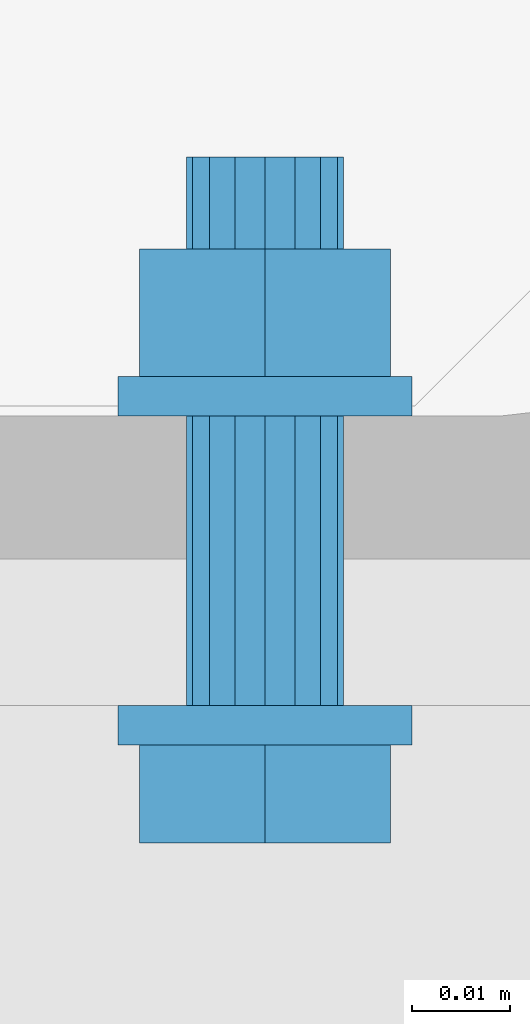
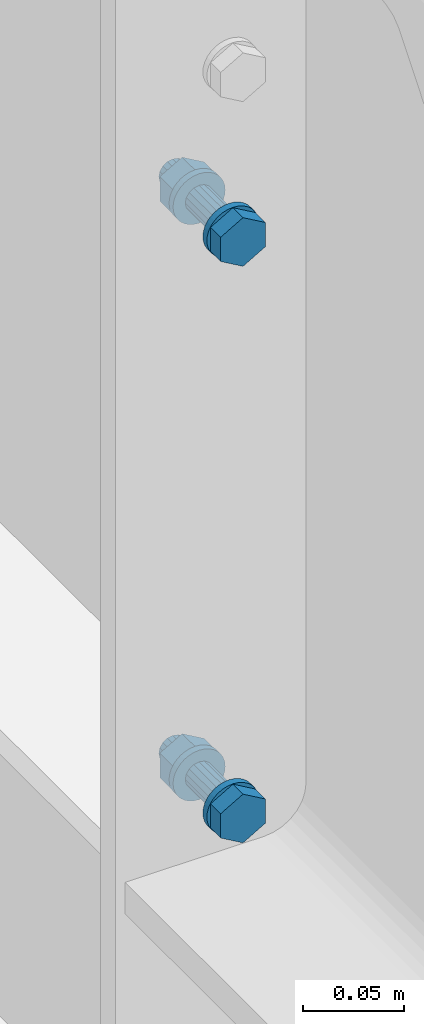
# Not in any storey, part 36 of 50: 2 mechanical fasteners.
"""IFC4 model written with IfcOpenShell, lengths in metres."""

from ifc_helpers import new_model, entity, si_unit, converted_unit, derived_unit, direction, origin, origin_with_axes, place, context, project, spatial, faceted_brep, element, save


model = new_model("IFC4")

# Units and contexts
model_context = context("Model", 3, precision=1e-05, world=origin(), true_north=direction((6.123233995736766e-17, 1.0)))
ifc_project = project(units=[si_unit("LENGTHUNIT", "METRE"), si_unit("AREAUNIT", "SQUARE_METRE"), converted_unit("PLANEANGLEUNIT", "DEGREE", entity("IfcPlaneAngleMeasure", 0.017453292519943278), si_unit("PLANEANGLEUNIT", "RADIAN"), dimensions=[0, 0, 0, 0, 0, 0, 0]), si_unit("VOLUMEUNIT", "CUBIC_METRE"), derived_unit("THERMALTRANSMITTANCEUNIT", [(si_unit("MASSUNIT", "GRAM", prefix="KILO"), 1), (si_unit("THERMODYNAMICTEMPERATUREUNIT", "KELVIN"), -1), (si_unit("TIMEUNIT", "SECOND"), -3)])], contexts=[model_context])

# Site
site_placement = place(None, origin())
site = spatial("IfcSite", under=ifc_project, at=site_placement, Name="Default", CompositionType="ELEMENT")

# Mechanical fasteners
mechanical_fastener_1_placement = place(site_placement, origin_with_axes())
element("IfcMechanicalFastener", 1, at=mechanical_fastener_1_placement, inside=site, ObjectType="Bolt#7", NominalDiameter=0.016, NominalLength=0.06, context=model_context, shape_type="Brep", body=[
    faceted_brep([(8.125144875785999, 17.685767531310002, 5.795), (8.125144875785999, 17.68976753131, 5.795), (8.12543309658, 17.68976753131, 5.79207364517), (8.12543309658, 17.685767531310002, 5.79207364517), (8.126286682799, 17.68976753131, 5.789259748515), (8.126286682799, 17.685767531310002, 5.789259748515), (8.127672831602, 17.68976753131, 5.7866664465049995), (8.127672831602, 17.685767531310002, 5.7866664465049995), (8.129538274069, 17.68976753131, 5.784393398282), (8.129538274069, 17.685767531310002, 5.784393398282), (8.131811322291, 17.68976753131, 5.782527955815), (8.131811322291, 17.685767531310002, 5.782527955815), (8.134404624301, 17.68976753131, 5.781141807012), (8.134404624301, 17.685767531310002, 5.781141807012), (8.137218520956, 17.68976753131, 5.7802882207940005), (8.137218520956, 17.685767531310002, 5.7802882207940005), (8.140144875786, 17.68976753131, 5.78), (8.140144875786, 17.685767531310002, 5.78), (8.143071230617, 17.68976753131, 5.7802882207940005), (8.143071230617, 17.685767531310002, 5.7802882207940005), (8.145885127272, 17.68976753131, 5.781141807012), (8.145885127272, 17.685767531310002, 5.781141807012), (8.148478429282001, 17.68976753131, 5.782527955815), (8.148478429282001, 17.685767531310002, 5.782527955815), (8.150751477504, 17.68976753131, 5.784393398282), (8.150751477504, 17.685767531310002, 5.784393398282), (8.152616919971, 17.68976753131, 5.7866664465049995), (8.152616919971, 17.685767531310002, 5.7866664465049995), (8.154003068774, 17.68976753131, 5.789259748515), (8.154003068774, 17.685767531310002, 5.789259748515), (8.154856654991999, 17.68976753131, 5.79207364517), (8.154856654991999, 17.685767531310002, 5.79207364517), (8.155144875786, 17.68976753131, 5.795), (8.155144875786, 17.685767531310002, 5.795), (8.154856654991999, 17.68976753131, 5.7979263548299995), (8.154856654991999, 17.685767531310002, 5.7979263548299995), (8.154003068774, 17.68976753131, 5.800740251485), (8.154003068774, 17.685767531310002, 5.800740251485), (8.152616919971, 17.68976753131, 5.803333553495), (8.152616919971, 17.685767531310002, 5.803333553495), (8.150751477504, 17.68976753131, 5.805606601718), (8.150751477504, 17.685767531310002, 5.805606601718), (8.148478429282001, 17.68976753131, 5.807472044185), (8.148478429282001, 17.685767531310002, 5.807472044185), (8.145885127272, 17.68976753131, 5.8088581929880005), (8.145885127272, 17.685767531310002, 5.8088581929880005), (8.143071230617, 17.68976753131, 5.809711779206), (8.143071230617, 17.685767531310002, 5.809711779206), (8.140144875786, 17.68976753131, 5.81), (8.140144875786, 17.685767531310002, 5.81), (8.137218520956, 17.68976753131, 5.809711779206), (8.137218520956, 17.685767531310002, 5.809711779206), (8.134404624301, 17.68976753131, 5.8088581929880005), (8.134404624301, 17.685767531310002, 5.8088581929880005), (8.131811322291, 17.68976753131, 5.807472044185), (8.131811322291, 17.685767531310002, 5.807472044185), (8.129538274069, 17.68976753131, 5.805606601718), (8.129538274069, 17.685767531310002, 5.805606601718), (8.127672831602, 17.68976753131, 5.803333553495), (8.127672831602, 17.685767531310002, 5.803333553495), (8.126286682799, 17.68976753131, 5.800740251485), (8.126286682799, 17.685767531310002, 5.800740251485), (8.12543309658, 17.68976753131, 5.7979263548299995), (8.12543309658, 17.685767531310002, 5.7979263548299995)], [[[0, 1, 2, 3]], [[3, 2, 4, 5]], [[5, 4, 6, 7]], [[7, 6, 8, 9]], [[9, 8, 10, 11]], [[11, 10, 12, 13]], [[13, 12, 14, 15]], [[15, 14, 16, 17]], [[17, 16, 18, 19]], [[19, 18, 20, 21]], [[21, 20, 22, 23]], [[23, 22, 24, 25]], [[25, 24, 26, 27]], [[27, 26, 28, 29]], [[29, 28, 30, 31]], [[31, 30, 32, 33]], [[33, 32, 34, 35]], [[35, 34, 36, 37]], [[37, 36, 38, 39]], [[39, 38, 40, 41]], [[41, 40, 42, 43]], [[43, 42, 44, 45]], [[45, 44, 46, 47]], [[47, 46, 48, 49]], [[49, 48, 50, 51]], [[51, 50, 52, 53]], [[53, 52, 54, 55]], [[55, 54, 56, 57]], [[57, 56, 58, 59]], [[59, 58, 60, 61]], [[61, 60, 62, 63]], [[63, 62, 1, 0]], [[0, 3, 5, 7, 9, 11, 13, 15, 17, 19, 21, 23, 25, 27, 29, 31, 33, 35, 37, 39, 41, 43, 45, 47, 49, 51, 53, 55, 57, 59, 61, 63]], [[1, 62, 60, 58, 56, 54, 52, 50, 48, 46, 44, 42, 40, 38, 36, 34, 32, 30, 28, 26, 24, 22, 20, 18, 16, 14, 12, 10, 8, 6, 4, 2]]]),
    faceted_brep([(8.152944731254, 17.685767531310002, 5.78761), (8.152944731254, 17.67576753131, 5.78761), (8.140144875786, 17.67576753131, 5.78022), (8.140144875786, 17.685767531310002, 5.78022), (8.127345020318, 17.67576753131, 5.78761), (8.127345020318, 17.685767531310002, 5.78761), (8.127345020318, 17.67576753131, 5.80239), (8.127345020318, 17.685767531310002, 5.80239), (8.140144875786, 17.67576753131, 5.80978), (8.140144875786, 17.685767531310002, 5.80978), (8.152944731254, 17.67576753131, 5.80239), (8.152944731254, 17.685767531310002, 5.80239)], [[[0, 1, 2, 3]], [[3, 2, 4, 5]], [[5, 4, 6, 7]], [[7, 6, 8, 9]], [[9, 8, 10, 11]], [[11, 10, 1, 0]], [[4, 2, 1, 10, 8, 6]], [[0, 3, 5, 7, 9, 11]]]),
    faceted_brep([(8.132144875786, 17.68976753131, 5.795), (8.132144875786, 17.71936753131, 5.795), (8.132753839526, 17.71936753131, 5.791938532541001), (8.132753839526, 17.68976753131, 5.791938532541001), (8.134488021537, 17.71936753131, 5.789343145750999), (8.134488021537, 17.68976753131, 5.789343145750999), (8.137083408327, 17.71936753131, 5.78760896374), (8.137083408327, 17.68976753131, 5.78760896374), (8.140144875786, 17.71936753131, 5.787), (8.140144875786, 17.68976753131, 5.787), (8.143206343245, 17.71936753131, 5.78760896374), (8.143206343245, 17.68976753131, 5.78760896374), (8.145801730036, 17.71936753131, 5.789343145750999), (8.145801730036, 17.68976753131, 5.789343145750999), (8.147535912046, 17.71936753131, 5.791938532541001), (8.147535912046, 17.68976753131, 5.791938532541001), (8.148144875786, 17.71936753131, 5.795), (8.148144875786, 17.68976753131, 5.795), (8.147535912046, 17.71936753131, 5.798061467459), (8.147535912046, 17.68976753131, 5.798061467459), (8.145801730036, 17.71936753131, 5.8006568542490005), (8.145801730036, 17.68976753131, 5.8006568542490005), (8.143206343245, 17.71936753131, 5.8023910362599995), (8.143206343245, 17.68976753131, 5.8023910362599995), (8.140144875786, 17.71936753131, 5.803), (8.140144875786, 17.68976753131, 5.803), (8.137083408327, 17.71936753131, 5.8023910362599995), (8.137083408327, 17.68976753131, 5.8023910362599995), (8.134488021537, 17.71936753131, 5.8006568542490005), (8.134488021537, 17.68976753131, 5.8006568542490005), (8.132753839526, 17.71936753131, 5.798061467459), (8.132753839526, 17.68976753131, 5.798061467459)], [[[0, 1, 2, 3]], [[3, 2, 4, 5]], [[5, 4, 6, 7]], [[7, 6, 8, 9]], [[9, 8, 10, 11]], [[11, 10, 12, 13]], [[13, 12, 14, 15]], [[15, 14, 16, 17]], [[17, 16, 18, 19]], [[19, 18, 20, 21]], [[21, 20, 22, 23]], [[23, 22, 24, 25]], [[25, 24, 26, 27]], [[27, 26, 28, 29]], [[29, 28, 30, 31]], [[31, 30, 1, 0]], [[0, 3, 5, 7, 9, 11, 13, 15, 17, 19, 21, 23, 25, 27, 29, 31]], [[1, 30, 28, 26, 24, 22, 20, 18, 16, 14, 12, 10, 8, 6, 4, 2]]]),
    faceted_brep([(8.125144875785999, 17.71936753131, 5.795), (8.125144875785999, 17.72336753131, 5.795), (8.12543309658, 17.72336753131, 5.79207364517), (8.12543309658, 17.71936753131, 5.79207364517), (8.126286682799, 17.72336753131, 5.789259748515), (8.126286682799, 17.71936753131, 5.789259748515), (8.127672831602, 17.72336753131, 5.7866664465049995), (8.127672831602, 17.71936753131, 5.7866664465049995), (8.129538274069, 17.72336753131, 5.784393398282), (8.129538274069, 17.71936753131, 5.784393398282), (8.131811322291, 17.72336753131, 5.782527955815), (8.131811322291, 17.71936753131, 5.782527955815), (8.134404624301, 17.72336753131, 5.781141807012), (8.134404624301, 17.71936753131, 5.781141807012), (8.137218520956, 17.72336753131, 5.7802882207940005), (8.137218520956, 17.71936753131, 5.7802882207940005), (8.140144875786, 17.72336753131, 5.78), (8.140144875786, 17.71936753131, 5.78), (8.143071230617, 17.72336753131, 5.7802882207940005), (8.143071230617, 17.71936753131, 5.7802882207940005), (8.145885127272, 17.72336753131, 5.781141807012), (8.145885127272, 17.71936753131, 5.781141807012), (8.148478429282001, 17.72336753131, 5.782527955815), (8.148478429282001, 17.71936753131, 5.782527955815), (8.150751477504, 17.72336753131, 5.784393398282), (8.150751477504, 17.71936753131, 5.784393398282), (8.152616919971, 17.72336753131, 5.7866664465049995), (8.152616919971, 17.71936753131, 5.7866664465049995), (8.154003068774, 17.72336753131, 5.789259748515), (8.154003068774, 17.71936753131, 5.789259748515), (8.154856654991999, 17.72336753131, 5.79207364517), (8.154856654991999, 17.71936753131, 5.79207364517), (8.155144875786, 17.72336753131, 5.795), (8.155144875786, 17.71936753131, 5.795), (8.154856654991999, 17.72336753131, 5.7979263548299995), (8.154856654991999, 17.71936753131, 5.7979263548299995), (8.154003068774, 17.72336753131, 5.800740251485), (8.154003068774, 17.71936753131, 5.800740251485), (8.152616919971, 17.72336753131, 5.803333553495), (8.152616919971, 17.71936753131, 5.803333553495), (8.150751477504, 17.72336753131, 5.805606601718), (8.150751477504, 17.71936753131, 5.805606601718), (8.148478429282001, 17.72336753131, 5.807472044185), (8.148478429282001, 17.71936753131, 5.807472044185), (8.145885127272, 17.72336753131, 5.8088581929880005), (8.145885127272, 17.71936753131, 5.8088581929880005), (8.143071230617, 17.72336753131, 5.809711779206), (8.143071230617, 17.71936753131, 5.809711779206), (8.140144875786, 17.72336753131, 5.81), (8.140144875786, 17.71936753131, 5.81), (8.137218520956, 17.72336753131, 5.809711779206), (8.137218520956, 17.71936753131, 5.809711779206), (8.134404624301, 17.72336753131, 5.8088581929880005), (8.134404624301, 17.71936753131, 5.8088581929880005), (8.131811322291, 17.72336753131, 5.807472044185), (8.131811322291, 17.71936753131, 5.807472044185), (8.129538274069, 17.72336753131, 5.805606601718), (8.129538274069, 17.71936753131, 5.805606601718), (8.127672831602, 17.72336753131, 5.803333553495), (8.127672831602, 17.71936753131, 5.803333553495), (8.126286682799, 17.72336753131, 5.800740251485), (8.126286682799, 17.71936753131, 5.800740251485), (8.12543309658, 17.72336753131, 5.7979263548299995), (8.12543309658, 17.71936753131, 5.7979263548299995)], [[[0, 1, 2, 3]], [[3, 2, 4, 5]], [[5, 4, 6, 7]], [[7, 6, 8, 9]], [[9, 8, 10, 11]], [[11, 10, 12, 13]], [[13, 12, 14, 15]], [[15, 14, 16, 17]], [[17, 16, 18, 19]], [[19, 18, 20, 21]], [[21, 20, 22, 23]], [[23, 22, 24, 25]], [[25, 24, 26, 27]], [[27, 26, 28, 29]], [[29, 28, 30, 31]], [[31, 30, 32, 33]], [[33, 32, 34, 35]], [[35, 34, 36, 37]], [[37, 36, 38, 39]], [[39, 38, 40, 41]], [[41, 40, 42, 43]], [[43, 42, 44, 45]], [[45, 44, 46, 47]], [[47, 46, 48, 49]], [[49, 48, 50, 51]], [[51, 50, 52, 53]], [[53, 52, 54, 55]], [[55, 54, 56, 57]], [[57, 56, 58, 59]], [[59, 58, 60, 61]], [[61, 60, 62, 63]], [[63, 62, 1, 0]], [[0, 3, 5, 7, 9, 11, 13, 15, 17, 19, 21, 23, 25, 27, 29, 31, 33, 35, 37, 39, 41, 43, 45, 47, 49, 51, 53, 55, 57, 59, 61, 63]], [[1, 62, 60, 58, 56, 54, 52, 50, 48, 46, 44, 42, 40, 38, 36, 34, 32, 30, 28, 26, 24, 22, 20, 18, 16, 14, 12, 10, 8, 6, 4, 2]]]),
    faceted_brep([(8.152944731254, 17.736367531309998, 5.78761), (8.152944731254, 17.72336753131, 5.78761), (8.140144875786, 17.72336753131, 5.78022), (8.140144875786, 17.736367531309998, 5.78022), (8.127345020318, 17.72336753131, 5.78761), (8.127345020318, 17.736367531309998, 5.78761), (8.127345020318, 17.72336753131, 5.80239), (8.127345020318, 17.736367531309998, 5.80239), (8.140144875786, 17.72336753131, 5.80978), (8.140144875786, 17.736367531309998, 5.80978), (8.152944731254, 17.72336753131, 5.80239), (8.152944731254, 17.736367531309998, 5.80239)], [[[0, 1, 2, 3]], [[3, 2, 4, 5]], [[5, 4, 6, 7]], [[7, 6, 8, 9]], [[9, 8, 10, 11]], [[11, 10, 1, 0]], [[4, 2, 1, 10, 8, 6]], [[0, 3, 5, 7, 9, 11]]]),
    faceted_brep([(8.132144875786, 17.736367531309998, 5.795), (8.132144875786, 17.74576753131, 5.795), (8.132753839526, 17.74576753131, 5.791938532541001), (8.132753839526, 17.736367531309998, 5.791938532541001), (8.134488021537, 17.74576753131, 5.789343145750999), (8.134488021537, 17.736367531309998, 5.789343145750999), (8.137083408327, 17.74576753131, 5.78760896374), (8.137083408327, 17.736367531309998, 5.78760896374), (8.140144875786, 17.74576753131, 5.787), (8.140144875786, 17.736367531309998, 5.787), (8.143206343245, 17.74576753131, 5.78760896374), (8.143206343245, 17.736367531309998, 5.78760896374), (8.145801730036, 17.74576753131, 5.789343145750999), (8.145801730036, 17.736367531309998, 5.789343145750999), (8.147535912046, 17.74576753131, 5.791938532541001), (8.147535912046, 17.736367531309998, 5.791938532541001), (8.148144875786, 17.74576753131, 5.795), (8.148144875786, 17.736367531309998, 5.795), (8.147535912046, 17.74576753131, 5.798061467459), (8.147535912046, 17.736367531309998, 5.798061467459), (8.145801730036, 17.74576753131, 5.8006568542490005), (8.145801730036, 17.736367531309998, 5.8006568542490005), (8.143206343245, 17.74576753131, 5.8023910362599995), (8.143206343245, 17.736367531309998, 5.8023910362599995), (8.140144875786, 17.74576753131, 5.803), (8.140144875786, 17.736367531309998, 5.803), (8.137083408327, 17.74576753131, 5.8023910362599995), (8.137083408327, 17.736367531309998, 5.8023910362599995), (8.134488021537, 17.74576753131, 5.8006568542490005), (8.134488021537, 17.736367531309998, 5.8006568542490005), (8.132753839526, 17.74576753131, 5.798061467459), (8.132753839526, 17.736367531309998, 5.798061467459)], [[[0, 1, 2, 3]], [[3, 2, 4, 5]], [[5, 4, 6, 7]], [[7, 6, 8, 9]], [[9, 8, 10, 11]], [[11, 10, 12, 13]], [[13, 12, 14, 15]], [[15, 14, 16, 17]], [[17, 16, 18, 19]], [[19, 18, 20, 21]], [[21, 20, 22, 23]], [[23, 22, 24, 25]], [[25, 24, 26, 27]], [[27, 26, 28, 29]], [[29, 28, 30, 31]], [[31, 30, 1, 0]], [[0, 3, 5, 7, 9, 11, 13, 15, 17, 19, 21, 23, 25, 27, 29, 31]], [[1, 30, 28, 26, 24, 22, 20, 18, 16, 14, 12, 10, 8, 6, 4, 2]]]),
])
mechanical_fastener_2_placement = place(site_placement, origin_with_axes())
element("IfcMechanicalFastener", 2, at=mechanical_fastener_2_placement, inside=site, ObjectType="Bolt#8", NominalDiameter=0.016, NominalLength=0.06, context=model_context, shape_type="Brep", body=[
    faceted_brep([(8.125144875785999, 17.685767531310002, 5.445), (8.125144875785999, 17.68976753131, 5.445), (8.12543309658, 17.68976753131, 5.442073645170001), (8.12543309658, 17.685767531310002, 5.442073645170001), (8.126286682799, 17.68976753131, 5.439259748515), (8.126286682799, 17.685767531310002, 5.439259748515), (8.127672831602, 17.68976753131, 5.436666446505), (8.127672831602, 17.685767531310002, 5.436666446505), (8.129538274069, 17.68976753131, 5.434393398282), (8.129538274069, 17.685767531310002, 5.434393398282), (8.131811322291, 17.68976753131, 5.432527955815), (8.131811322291, 17.685767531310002, 5.432527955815), (8.134404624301, 17.68976753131, 5.431141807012), (8.134404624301, 17.685767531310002, 5.431141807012), (8.137218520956, 17.68976753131, 5.430288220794), (8.137218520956, 17.685767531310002, 5.430288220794), (8.140144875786, 17.68976753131, 5.43), (8.140144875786, 17.685767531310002, 5.43), (8.143071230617, 17.68976753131, 5.430288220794), (8.143071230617, 17.685767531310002, 5.430288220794), (8.145885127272, 17.68976753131, 5.431141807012), (8.145885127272, 17.685767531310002, 5.431141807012), (8.148478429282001, 17.68976753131, 5.432527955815), (8.148478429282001, 17.685767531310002, 5.432527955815), (8.150751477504, 17.68976753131, 5.434393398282), (8.150751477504, 17.685767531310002, 5.434393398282), (8.152616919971, 17.68976753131, 5.436666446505), (8.152616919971, 17.685767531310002, 5.436666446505), (8.154003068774, 17.68976753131, 5.439259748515), (8.154003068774, 17.685767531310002, 5.439259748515), (8.154856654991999, 17.68976753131, 5.442073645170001), (8.154856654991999, 17.685767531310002, 5.442073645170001), (8.155144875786, 17.68976753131, 5.445), (8.155144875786, 17.685767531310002, 5.445), (8.154856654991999, 17.68976753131, 5.44792635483), (8.154856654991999, 17.685767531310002, 5.44792635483), (8.154003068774, 17.68976753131, 5.450740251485), (8.154003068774, 17.685767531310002, 5.450740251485), (8.152616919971, 17.68976753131, 5.453333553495), (8.152616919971, 17.685767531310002, 5.453333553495), (8.150751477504, 17.68976753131, 5.455606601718), (8.150751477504, 17.685767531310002, 5.455606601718), (8.148478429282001, 17.68976753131, 5.457472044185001), (8.148478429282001, 17.685767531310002, 5.457472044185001), (8.145885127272, 17.68976753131, 5.458858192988), (8.145885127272, 17.685767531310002, 5.458858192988), (8.143071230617, 17.68976753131, 5.459711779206), (8.143071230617, 17.685767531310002, 5.459711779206), (8.140144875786, 17.68976753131, 5.46), (8.140144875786, 17.685767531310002, 5.46), (8.137218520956, 17.68976753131, 5.459711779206), (8.137218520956, 17.685767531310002, 5.459711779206), (8.134404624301, 17.68976753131, 5.458858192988), (8.134404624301, 17.685767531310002, 5.458858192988), (8.131811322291, 17.68976753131, 5.457472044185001), (8.131811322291, 17.685767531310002, 5.457472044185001), (8.129538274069, 17.68976753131, 5.455606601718), (8.129538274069, 17.685767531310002, 5.455606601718), (8.127672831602, 17.68976753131, 5.453333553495), (8.127672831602, 17.685767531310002, 5.453333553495), (8.126286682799, 17.68976753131, 5.450740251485), (8.126286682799, 17.685767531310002, 5.450740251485), (8.12543309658, 17.68976753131, 5.44792635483), (8.12543309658, 17.685767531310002, 5.44792635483)], [[[0, 1, 2, 3]], [[3, 2, 4, 5]], [[5, 4, 6, 7]], [[7, 6, 8, 9]], [[9, 8, 10, 11]], [[11, 10, 12, 13]], [[13, 12, 14, 15]], [[15, 14, 16, 17]], [[17, 16, 18, 19]], [[19, 18, 20, 21]], [[21, 20, 22, 23]], [[23, 22, 24, 25]], [[25, 24, 26, 27]], [[27, 26, 28, 29]], [[29, 28, 30, 31]], [[31, 30, 32, 33]], [[33, 32, 34, 35]], [[35, 34, 36, 37]], [[37, 36, 38, 39]], [[39, 38, 40, 41]], [[41, 40, 42, 43]], [[43, 42, 44, 45]], [[45, 44, 46, 47]], [[47, 46, 48, 49]], [[49, 48, 50, 51]], [[51, 50, 52, 53]], [[53, 52, 54, 55]], [[55, 54, 56, 57]], [[57, 56, 58, 59]], [[59, 58, 60, 61]], [[61, 60, 62, 63]], [[63, 62, 1, 0]], [[0, 3, 5, 7, 9, 11, 13, 15, 17, 19, 21, 23, 25, 27, 29, 31, 33, 35, 37, 39, 41, 43, 45, 47, 49, 51, 53, 55, 57, 59, 61, 63]], [[1, 62, 60, 58, 56, 54, 52, 50, 48, 46, 44, 42, 40, 38, 36, 34, 32, 30, 28, 26, 24, 22, 20, 18, 16, 14, 12, 10, 8, 6, 4, 2]]]),
    faceted_brep([(8.152944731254, 17.685767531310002, 5.437609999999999), (8.152944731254, 17.67576753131, 5.437609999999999), (8.140144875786, 17.67576753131, 5.43022), (8.140144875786, 17.685767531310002, 5.43022), (8.127345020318, 17.67576753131, 5.437609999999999), (8.127345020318, 17.685767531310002, 5.437609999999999), (8.127345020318, 17.67576753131, 5.45239), (8.127345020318, 17.685767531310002, 5.45239), (8.140144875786, 17.67576753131, 5.459779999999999), (8.140144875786, 17.685767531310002, 5.459779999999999), (8.152944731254, 17.67576753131, 5.45239), (8.152944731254, 17.685767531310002, 5.45239)], [[[0, 1, 2, 3]], [[3, 2, 4, 5]], [[5, 4, 6, 7]], [[7, 6, 8, 9]], [[9, 8, 10, 11]], [[11, 10, 1, 0]], [[4, 2, 1, 10, 8, 6]], [[0, 3, 5, 7, 9, 11]]]),
    faceted_brep([(8.132144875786, 17.68976753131, 5.445), (8.132144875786, 17.71936753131, 5.445), (8.132753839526, 17.71936753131, 5.441938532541), (8.132753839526, 17.68976753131, 5.441938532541), (8.134488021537, 17.71936753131, 5.439343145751), (8.134488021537, 17.68976753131, 5.439343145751), (8.137083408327, 17.71936753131, 5.43760896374), (8.137083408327, 17.68976753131, 5.43760896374), (8.140144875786, 17.71936753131, 5.437), (8.140144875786, 17.68976753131, 5.437), (8.143206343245, 17.71936753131, 5.43760896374), (8.143206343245, 17.68976753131, 5.43760896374), (8.145801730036, 17.71936753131, 5.439343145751), (8.145801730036, 17.68976753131, 5.439343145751), (8.147535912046, 17.71936753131, 5.441938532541), (8.147535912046, 17.68976753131, 5.441938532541), (8.148144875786, 17.71936753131, 5.445), (8.148144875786, 17.68976753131, 5.445), (8.147535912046, 17.71936753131, 5.4480614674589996), (8.147535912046, 17.68976753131, 5.4480614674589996), (8.145801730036, 17.71936753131, 5.450656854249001), (8.145801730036, 17.68976753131, 5.450656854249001), (8.143206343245, 17.71936753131, 5.45239103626), (8.143206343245, 17.68976753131, 5.45239103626), (8.140144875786, 17.71936753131, 5.453), (8.140144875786, 17.68976753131, 5.453), (8.137083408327, 17.71936753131, 5.45239103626), (8.137083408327, 17.68976753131, 5.45239103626), (8.134488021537, 17.71936753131, 5.450656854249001), (8.134488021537, 17.68976753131, 5.450656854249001), (8.132753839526, 17.71936753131, 5.4480614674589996), (8.132753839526, 17.68976753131, 5.4480614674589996)], [[[0, 1, 2, 3]], [[3, 2, 4, 5]], [[5, 4, 6, 7]], [[7, 6, 8, 9]], [[9, 8, 10, 11]], [[11, 10, 12, 13]], [[13, 12, 14, 15]], [[15, 14, 16, 17]], [[17, 16, 18, 19]], [[19, 18, 20, 21]], [[21, 20, 22, 23]], [[23, 22, 24, 25]], [[25, 24, 26, 27]], [[27, 26, 28, 29]], [[29, 28, 30, 31]], [[31, 30, 1, 0]], [[0, 3, 5, 7, 9, 11, 13, 15, 17, 19, 21, 23, 25, 27, 29, 31]], [[1, 30, 28, 26, 24, 22, 20, 18, 16, 14, 12, 10, 8, 6, 4, 2]]]),
    faceted_brep([(8.125144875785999, 17.71936753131, 5.445), (8.125144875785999, 17.72336753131, 5.445), (8.12543309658, 17.72336753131, 5.442073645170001), (8.12543309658, 17.71936753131, 5.442073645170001), (8.126286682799, 17.72336753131, 5.439259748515), (8.126286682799, 17.71936753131, 5.439259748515), (8.127672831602, 17.72336753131, 5.436666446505), (8.127672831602, 17.71936753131, 5.436666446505), (8.129538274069, 17.72336753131, 5.434393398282), (8.129538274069, 17.71936753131, 5.434393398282), (8.131811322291, 17.72336753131, 5.432527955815), (8.131811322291, 17.71936753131, 5.432527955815), (8.134404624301, 17.72336753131, 5.431141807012), (8.134404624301, 17.71936753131, 5.431141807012), (8.137218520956, 17.72336753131, 5.430288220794), (8.137218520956, 17.71936753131, 5.430288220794), (8.140144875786, 17.72336753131, 5.43), (8.140144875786, 17.71936753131, 5.43), (8.143071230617, 17.72336753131, 5.430288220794), (8.143071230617, 17.71936753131, 5.430288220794), (8.145885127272, 17.72336753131, 5.431141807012), (8.145885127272, 17.71936753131, 5.431141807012), (8.148478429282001, 17.72336753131, 5.432527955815), (8.148478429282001, 17.71936753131, 5.432527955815), (8.150751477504, 17.72336753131, 5.434393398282), (8.150751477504, 17.71936753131, 5.434393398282), (8.152616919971, 17.72336753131, 5.436666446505), (8.152616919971, 17.71936753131, 5.436666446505), (8.154003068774, 17.72336753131, 5.439259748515), (8.154003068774, 17.71936753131, 5.439259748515), (8.154856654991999, 17.72336753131, 5.442073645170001), (8.154856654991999, 17.71936753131, 5.442073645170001), (8.155144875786, 17.72336753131, 5.445), (8.155144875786, 17.71936753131, 5.445), (8.154856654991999, 17.72336753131, 5.44792635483), (8.154856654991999, 17.71936753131, 5.44792635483), (8.154003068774, 17.72336753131, 5.450740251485), (8.154003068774, 17.71936753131, 5.450740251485), (8.152616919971, 17.72336753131, 5.453333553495), (8.152616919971, 17.71936753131, 5.453333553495), (8.150751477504, 17.72336753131, 5.455606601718), (8.150751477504, 17.71936753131, 5.455606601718), (8.148478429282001, 17.72336753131, 5.457472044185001), (8.148478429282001, 17.71936753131, 5.457472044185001), (8.145885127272, 17.72336753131, 5.458858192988), (8.145885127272, 17.71936753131, 5.458858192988), (8.143071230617, 17.72336753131, 5.459711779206), (8.143071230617, 17.71936753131, 5.459711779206), (8.140144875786, 17.72336753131, 5.46), (8.140144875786, 17.71936753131, 5.46), (8.137218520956, 17.72336753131, 5.459711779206), (8.137218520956, 17.71936753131, 5.459711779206), (8.134404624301, 17.72336753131, 5.458858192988), (8.134404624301, 17.71936753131, 5.458858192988), (8.131811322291, 17.72336753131, 5.457472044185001), (8.131811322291, 17.71936753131, 5.457472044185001), (8.129538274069, 17.72336753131, 5.455606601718), (8.129538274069, 17.71936753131, 5.455606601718), (8.127672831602, 17.72336753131, 5.453333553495), (8.127672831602, 17.71936753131, 5.453333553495), (8.126286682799, 17.72336753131, 5.450740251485), (8.126286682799, 17.71936753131, 5.450740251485), (8.12543309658, 17.72336753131, 5.44792635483), (8.12543309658, 17.71936753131, 5.44792635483)], [[[0, 1, 2, 3]], [[3, 2, 4, 5]], [[5, 4, 6, 7]], [[7, 6, 8, 9]], [[9, 8, 10, 11]], [[11, 10, 12, 13]], [[13, 12, 14, 15]], [[15, 14, 16, 17]], [[17, 16, 18, 19]], [[19, 18, 20, 21]], [[21, 20, 22, 23]], [[23, 22, 24, 25]], [[25, 24, 26, 27]], [[27, 26, 28, 29]], [[29, 28, 30, 31]], [[31, 30, 32, 33]], [[33, 32, 34, 35]], [[35, 34, 36, 37]], [[37, 36, 38, 39]], [[39, 38, 40, 41]], [[41, 40, 42, 43]], [[43, 42, 44, 45]], [[45, 44, 46, 47]], [[47, 46, 48, 49]], [[49, 48, 50, 51]], [[51, 50, 52, 53]], [[53, 52, 54, 55]], [[55, 54, 56, 57]], [[57, 56, 58, 59]], [[59, 58, 60, 61]], [[61, 60, 62, 63]], [[63, 62, 1, 0]], [[0, 3, 5, 7, 9, 11, 13, 15, 17, 19, 21, 23, 25, 27, 29, 31, 33, 35, 37, 39, 41, 43, 45, 47, 49, 51, 53, 55, 57, 59, 61, 63]], [[1, 62, 60, 58, 56, 54, 52, 50, 48, 46, 44, 42, 40, 38, 36, 34, 32, 30, 28, 26, 24, 22, 20, 18, 16, 14, 12, 10, 8, 6, 4, 2]]]),
    faceted_brep([(8.152944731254, 17.736367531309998, 5.437609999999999), (8.152944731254, 17.72336753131, 5.437609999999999), (8.140144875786, 17.72336753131, 5.43022), (8.140144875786, 17.736367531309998, 5.43022), (8.127345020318, 17.72336753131, 5.437609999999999), (8.127345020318, 17.736367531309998, 5.437609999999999), (8.127345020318, 17.72336753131, 5.45239), (8.127345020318, 17.736367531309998, 5.45239), (8.140144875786, 17.72336753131, 5.459779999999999), (8.140144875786, 17.736367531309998, 5.459779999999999), (8.152944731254, 17.72336753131, 5.45239), (8.152944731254, 17.736367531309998, 5.45239)], [[[0, 1, 2, 3]], [[3, 2, 4, 5]], [[5, 4, 6, 7]], [[7, 6, 8, 9]], [[9, 8, 10, 11]], [[11, 10, 1, 0]], [[4, 2, 1, 10, 8, 6]], [[0, 3, 5, 7, 9, 11]]]),
    faceted_brep([(8.132144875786, 17.736367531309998, 5.445), (8.132144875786, 17.74576753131, 5.445), (8.132753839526, 17.74576753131, 5.441938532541), (8.132753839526, 17.736367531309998, 5.441938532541), (8.134488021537, 17.74576753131, 5.439343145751), (8.134488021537, 17.736367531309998, 5.439343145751), (8.137083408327, 17.74576753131, 5.43760896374), (8.137083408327, 17.736367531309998, 5.43760896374), (8.140144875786, 17.74576753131, 5.437), (8.140144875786, 17.736367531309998, 5.437), (8.143206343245, 17.74576753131, 5.43760896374), (8.143206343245, 17.736367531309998, 5.43760896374), (8.145801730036, 17.74576753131, 5.439343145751), (8.145801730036, 17.736367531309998, 5.439343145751), (8.147535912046, 17.74576753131, 5.441938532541), (8.147535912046, 17.736367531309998, 5.441938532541), (8.148144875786, 17.74576753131, 5.445), (8.148144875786, 17.736367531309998, 5.445), (8.147535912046, 17.74576753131, 5.4480614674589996), (8.147535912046, 17.736367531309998, 5.4480614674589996), (8.145801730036, 17.74576753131, 5.450656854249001), (8.145801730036, 17.736367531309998, 5.450656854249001), (8.143206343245, 17.74576753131, 5.45239103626), (8.143206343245, 17.736367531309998, 5.45239103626), (8.140144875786, 17.74576753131, 5.453), (8.140144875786, 17.736367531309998, 5.453), (8.137083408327, 17.74576753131, 5.45239103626), (8.137083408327, 17.736367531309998, 5.45239103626), (8.134488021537, 17.74576753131, 5.450656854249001), (8.134488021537, 17.736367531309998, 5.450656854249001), (8.132753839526, 17.74576753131, 5.4480614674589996), (8.132753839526, 17.736367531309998, 5.4480614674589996)], [[[0, 1, 2, 3]], [[3, 2, 4, 5]], [[5, 4, 6, 7]], [[7, 6, 8, 9]], [[9, 8, 10, 11]], [[11, 10, 12, 13]], [[13, 12, 14, 15]], [[15, 14, 16, 17]], [[17, 16, 18, 19]], [[19, 18, 20, 21]], [[21, 20, 22, 23]], [[23, 22, 24, 25]], [[25, 24, 26, 27]], [[27, 26, 28, 29]], [[29, 28, 30, 31]], [[31, 30, 1, 0]], [[0, 3, 5, 7, 9, 11, 13, 15, 17, 19, 21, 23, 25, 27, 29, 31]], [[1, 30, 28, 26, 24, 22, 20, 18, 16, 14, 12, 10, 8, 6, 4, 2]]]),
])

save(model, "model.ifc")
